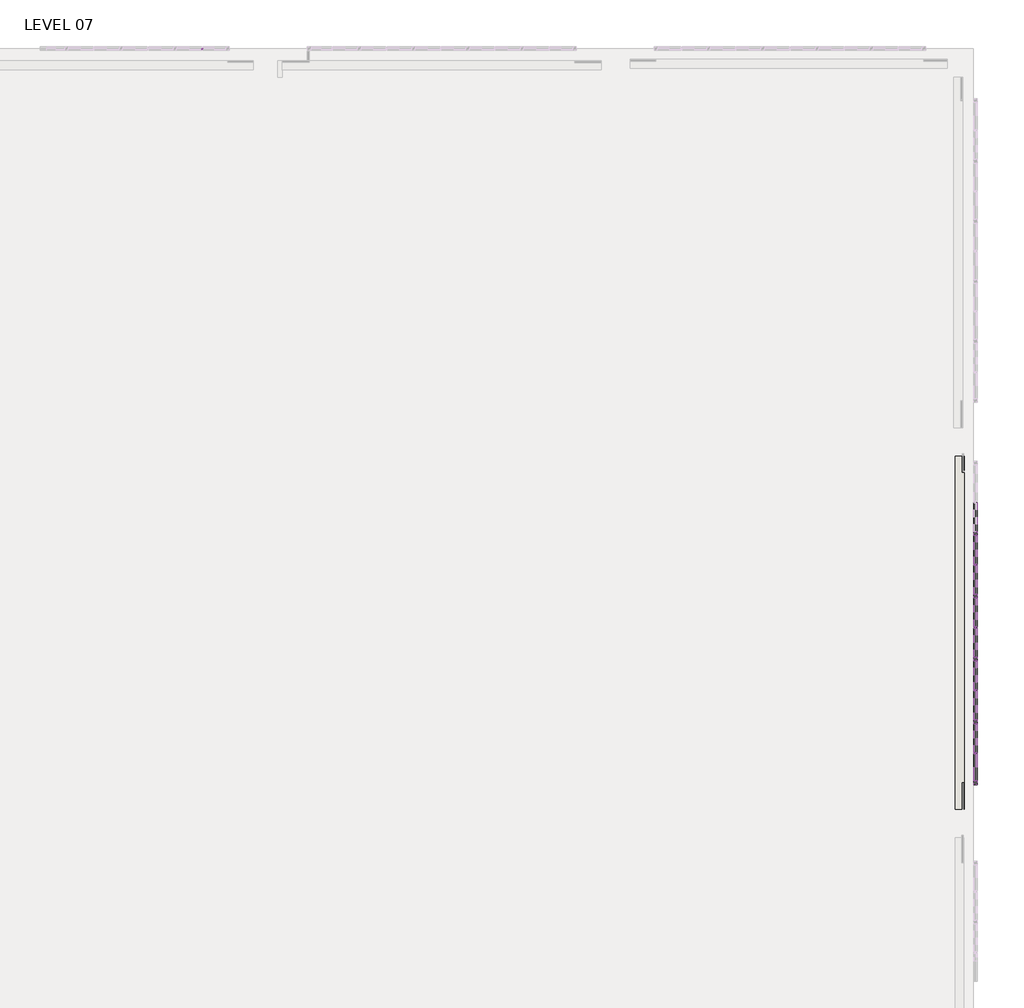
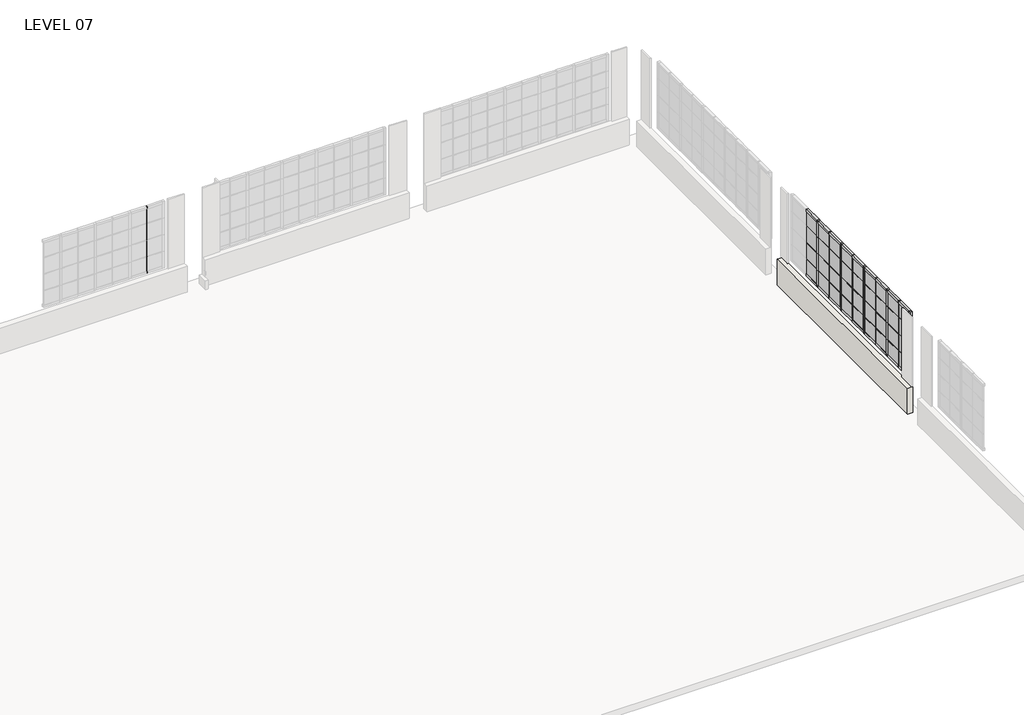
# One storey, part 11 of 15: 84 members, 36 plates, 2 walls.
"""IFC4 building model written with IfcOpenShell, lengths in millimetres."""

from ifc_helpers import new_model, si_unit, frame, origin, place, context, project, spatial, polyline, outline, extrude, transform, mapped, element, save
from components import member_78bb2ef1, member_2883aa03, member_9f48436b, member_378e0c06, member_17eb62f4, member_07c2242c, member_a14e987e, system_panel_glazed_c885c3d8, system_panel_glazed_038a278e, system_panel_glazed_6405e6af, system_panel_glazed_a1473ad5

model = new_model("IFC4")

# Units and contexts
model_context = context("Model", 3, world=origin())
ifc_project = project(units=[si_unit("LENGTHUNIT", "METRE", prefix="MILLI")], contexts=[model_context])

# Site, building, storey
site = spatial("IfcSite", under=ifc_project)
building = spatial("IfcBuilding", under=site)
storey = spatial("IfcBuildingStorey", under=building, Name="LEVEL 07", Elevation=20802.6)

# Members
placement = place(None, origin())
member_shape = member_78bb2ef1(model_context)
element("IfcMember", 1, ObjectType="Rectangular Mullion : 1\" x 1\" - Butt Joint", at=placement, inside=storey, context=model_context, shape_type="MappedRepresentation", body=[
    mapped(member_shape, transform((-445.6849596, -15316.3112602, 23342.6), x_axis=(0.0, 1.0, 0.0), y_axis=(1.0, 0.0, 0.0), z_axis=(0.0, 0.0, -1.0))),
])
element("IfcMember", 2, ObjectType="Rectangular Mullion : 1\" x 1\" - Butt Joint", at=placement, inside=storey, context=model_context, shape_type="MappedRepresentation", body=[
    mapped(member_shape, transform((-445.6849596, -13987.0198691, 23342.6), x_axis=(0.0, 1.0, 0.0), y_axis=(1.0, 0.0, 0.0), z_axis=(0.0, 0.0, -1.0))),
])
element("IfcMember", 3, ObjectType="Rectangular Mullion : 1\" x 1\" - Butt Joint", at=placement, inside=storey, context=model_context, shape_type="MappedRepresentation", body=[
    mapped(member_shape, transform((-445.6849596, -12657.7284779, 23342.6), x_axis=(0.0, 1.0, 0.0), y_axis=(1.0, 0.0, 0.0), z_axis=(0.0, 0.0, -1.0))),
])
element("IfcMember", 4, ObjectType="Rectangular Mullion : 1\" x 1\" - Butt Joint", at=placement, inside=storey, context=model_context, shape_type="MappedRepresentation", body=[
    mapped(member_shape, transform((-445.6849596, -11328.4370867, 23342.6), x_axis=(0.0, 1.0, 0.0), y_axis=(1.0, 0.0, 0.0), z_axis=(0.0, 0.0, -1.0))),
])
element("IfcMember", 5, ObjectType="Rectangular Mullion : 1\" x 1\" - Butt Joint", at=placement, inside=storey, context=model_context, shape_type="MappedRepresentation", body=[
    mapped(member_shape, transform((-445.6849596, -15316.3112602, 22174.2), x_axis=(0.0, 1.0, 0.0), y_axis=(1.0, 0.0, 0.0), z_axis=(0.0, 0.0, -1.0))),
])
element("IfcMember", 6, ObjectType="Rectangular Mullion : 1\" x 1\" - Butt Joint", at=placement, inside=storey, context=model_context, shape_type="MappedRepresentation", body=[
    mapped(member_shape, transform((-445.6849596, -15316.3112602, 22758.4), x_axis=(0.0, 1.0, 0.0), y_axis=(1.0, 0.0, 0.0), z_axis=(0.0, 0.0, -1.0))),
])
element("IfcMember", 7, ObjectType="Rectangular Mullion : 1\" x 1\" - Butt Joint", at=placement, inside=storey, context=model_context, shape_type="MappedRepresentation", body=[
    mapped(member_shape, transform((-445.6849596, -13987.0198691, 22174.2), x_axis=(0.0, 1.0, 0.0), y_axis=(1.0, 0.0, 0.0), z_axis=(0.0, 0.0, -1.0))),
])
element("IfcMember", 8, ObjectType="Rectangular Mullion : 1\" x 1\" - Butt Joint", at=placement, inside=storey, context=model_context, shape_type="MappedRepresentation", body=[
    mapped(member_shape, transform((-445.6849596, -13987.0198691, 22758.4), x_axis=(0.0, 1.0, 0.0), y_axis=(1.0, 0.0, 0.0), z_axis=(0.0, 0.0, -1.0))),
])
element("IfcMember", 9, ObjectType="Rectangular Mullion : 1\" x 1\" - Butt Joint", at=placement, inside=storey, context=model_context, shape_type="MappedRepresentation", body=[
    mapped(member_shape, transform((-445.6849596, -12657.7284779, 22174.2), x_axis=(0.0, 1.0, 0.0), y_axis=(1.0, 0.0, 0.0), z_axis=(0.0, 0.0, -1.0))),
])
element("IfcMember", 10, ObjectType="Rectangular Mullion : 1\" x 1\" - Butt Joint", at=placement, inside=storey, context=model_context, shape_type="MappedRepresentation", body=[
    mapped(member_shape, transform((-445.6849596, -12657.7284779, 22758.4), x_axis=(0.0, 1.0, 0.0), y_axis=(1.0, 0.0, 0.0), z_axis=(0.0, 0.0, -1.0))),
])
element("IfcMember", 11, ObjectType="Rectangular Mullion : 1\" x 1\" - Butt Joint", at=placement, inside=storey, context=model_context, shape_type="MappedRepresentation", body=[
    mapped(member_shape, transform((-445.6849596, -11328.4370867, 22174.2), x_axis=(0.0, 1.0, 0.0), y_axis=(1.0, 0.0, 0.0), z_axis=(0.0, 0.0, -1.0))),
])
element("IfcMember", 12, ObjectType="Rectangular Mullion : 1\" x 1\" - Butt Joint", at=placement, inside=storey, context=model_context, shape_type="MappedRepresentation", body=[
    mapped(member_shape, transform((-445.6849596, -11328.4370867, 22758.4), x_axis=(0.0, 1.0, 0.0), y_axis=(1.0, 0.0, 0.0), z_axis=(0.0, 0.0, -1.0))),
])
element("IfcMember", 13, ObjectType="Rectangular Mullion : 1\" x 1\" - Butt Joint", at=placement, inside=storey, context=model_context, shape_type="MappedRepresentation", body=[
    mapped(member_shape, transform((-445.6849596, -15316.3112602, 21590.0), x_axis=(0.0, 1.0, 0.0), y_axis=(1.0, 0.0, 0.0), z_axis=(0.0, 0.0, -1.0))),
])
element("IfcMember", 14, ObjectType="Rectangular Mullion : 1\" x 1\" - Butt Joint", at=placement, inside=storey, context=model_context, shape_type="MappedRepresentation", body=[
    mapped(member_shape, transform((-445.6849596, -13987.0198691, 21590.0), x_axis=(0.0, 1.0, 0.0), y_axis=(1.0, 0.0, 0.0), z_axis=(0.0, 0.0, -1.0))),
])
element("IfcMember", 15, ObjectType="Rectangular Mullion : 1\" x 1\" - Butt Joint", at=placement, inside=storey, context=model_context, shape_type="MappedRepresentation", body=[
    mapped(member_shape, transform((-445.6849596, -12657.7284779, 21590.0), x_axis=(0.0, 1.0, 0.0), y_axis=(1.0, 0.0, 0.0), z_axis=(0.0, 0.0, -1.0))),
])
element("IfcMember", 16, ObjectType="Rectangular Mullion : 1\" x 1\" - Butt Joint", at=placement, inside=storey, context=model_context, shape_type="MappedRepresentation", body=[
    mapped(member_shape, transform((-445.6849596, -11328.4370867, 21590.0), x_axis=(0.0, 1.0, 0.0), y_axis=(1.0, 0.0, 0.0), z_axis=(0.0, 0.0, -1.0))),
])
element("IfcMember", 17, ObjectType="Rectangular Mullion : 1\" x 1\" - Butt Joint", at=placement, inside=storey, context=model_context, shape_type="MappedRepresentation", body=[
    mapped(member_shape, transform((-16800.0371519, -412.75, 23342.6), x_axis=(1.0, 0.0, 0.0), y_axis=(0.0, -1.0, 0.0), z_axis=(0.0, 0.0, -1.0))),
])
element("IfcMember", 18, ObjectType="Rectangular Mullion : 1\" x 1\" - Butt Joint", at=placement, inside=storey, context=model_context, shape_type="MappedRepresentation", body=[
    mapped(member_shape, transform((-16800.0371519, -412.75, 22174.2), x_axis=(1.0, 0.0, 0.0), y_axis=(0.0, -1.0, 0.0), z_axis=(0.0, 0.0, -1.0))),
])
element("IfcMember", 19, ObjectType="Rectangular Mullion : 1\" x 1\" - Butt Joint", at=placement, inside=storey, context=model_context, shape_type="MappedRepresentation", body=[
    mapped(member_shape, transform((-16800.0371519, -412.75, 22758.4), x_axis=(1.0, 0.0, 0.0), y_axis=(0.0, -1.0, 0.0), z_axis=(0.0, 0.0, -1.0))),
])
element("IfcMember", 20, ObjectType="Rectangular Mullion : 1\" x 1\" - Butt Joint", at=placement, inside=storey, context=model_context, shape_type="MappedRepresentation", body=[
    mapped(member_shape, transform((-16800.0371519, -412.75, 21590.0), x_axis=(1.0, 0.0, 0.0), y_axis=(0.0, -1.0, 0.0), z_axis=(0.0, 0.0, -1.0))),
])
member_2_shape = member_2883aa03(model_context)
element("IfcMember", 21, ObjectType="Rectangular Mullion : 1\" x 1\" - Butt Joint", at=placement, inside=storey, context=model_context, shape_type="MappedRepresentation", body=[
    mapped(member_2_shape, transform((-445.6849596, -10701.8913912, 23342.6), x_axis=(0.0, 0.0, 1.0), y_axis=(1.0, 0.0, 0.0), z_axis=(0.0, 1.0, 0.0))),
])
element("IfcMember", 22, ObjectType="Rectangular Mullion : 1\" x 1\" - Butt Joint", at=placement, inside=storey, context=model_context, shape_type="MappedRepresentation", body=[
    mapped(member_2_shape, transform((-445.6849596, -12031.1827823, 23342.6), x_axis=(0.0, 0.0, 1.0), y_axis=(1.0, 0.0, 0.0), z_axis=(0.0, 1.0, 0.0))),
])
element("IfcMember", 23, ObjectType="Rectangular Mullion : 1\" x 1\" - Butt Joint", at=placement, inside=storey, context=model_context, shape_type="MappedRepresentation", body=[
    mapped(member_2_shape, transform((-445.6849596, -13360.4741735, 23342.6), x_axis=(0.0, 0.0, 1.0), y_axis=(1.0, 0.0, 0.0), z_axis=(0.0, 1.0, 0.0))),
])
element("IfcMember", 24, ObjectType="Rectangular Mullion : 1\" x 1\" - Butt Joint", at=placement, inside=storey, context=model_context, shape_type="MappedRepresentation", body=[
    mapped(member_2_shape, transform((-445.6849596, -14689.7655646, 23342.6), x_axis=(0.0, 0.0, 1.0), y_axis=(1.0, 0.0, 0.0), z_axis=(0.0, 1.0, 0.0))),
])
element("IfcMember", 25, ObjectType="Rectangular Mullion : 1\" x 1\" - Butt Joint", at=placement, inside=storey, context=model_context, shape_type="MappedRepresentation", body=[
    mapped(member_2_shape, transform((-445.6849596, -10011.8456956, 23342.6), x_axis=(0.0, 0.0, 1.0), y_axis=(1.0, 0.0, 0.0), z_axis=(0.0, 1.0, 0.0))),
])
element("IfcMember", 26, ObjectType="Rectangular Mullion : 1\" x 1\" - Butt Joint", at=placement, inside=storey, context=model_context, shape_type="MappedRepresentation", body=[
    mapped(member_2_shape, transform((-445.6849596, -11341.1370867, 23342.6), x_axis=(0.0, 0.0, 1.0), y_axis=(1.0, 0.0, 0.0), z_axis=(0.0, 1.0, 0.0))),
])
element("IfcMember", 27, ObjectType="Rectangular Mullion : 1\" x 1\" - Butt Joint", at=placement, inside=storey, context=model_context, shape_type="MappedRepresentation", body=[
    mapped(member_2_shape, transform((-445.6849596, -12670.4284779, 23342.6), x_axis=(0.0, 0.0, 1.0), y_axis=(1.0, 0.0, 0.0), z_axis=(0.0, 1.0, 0.0))),
])
element("IfcMember", 28, ObjectType="Rectangular Mullion : 1\" x 1\" - Butt Joint", at=placement, inside=storey, context=model_context, shape_type="MappedRepresentation", body=[
    mapped(member_2_shape, transform((-445.6849596, -13999.7198691, 23342.6), x_axis=(0.0, 0.0, 1.0), y_axis=(1.0, 0.0, 0.0), z_axis=(0.0, 1.0, 0.0))),
])
element("IfcMember", 29, ObjectType="Rectangular Mullion : 1\" x 1\" - Butt Joint", at=placement, inside=storey, context=model_context, shape_type="MappedRepresentation", body=[
    mapped(member_2_shape, transform((-445.6849596, -10701.8913912, 22758.4), x_axis=(0.0, 0.0, 1.0), y_axis=(1.0, 0.0, 0.0), z_axis=(0.0, 1.0, 0.0))),
])
element("IfcMember", 30, ObjectType="Rectangular Mullion : 1\" x 1\" - Butt Joint", at=placement, inside=storey, context=model_context, shape_type="MappedRepresentation", body=[
    mapped(member_2_shape, transform((-445.6849596, -12031.1827823, 22758.4), x_axis=(0.0, 0.0, 1.0), y_axis=(1.0, 0.0, 0.0), z_axis=(0.0, 1.0, 0.0))),
])
element("IfcMember", 31, ObjectType="Rectangular Mullion : 1\" x 1\" - Butt Joint", at=placement, inside=storey, context=model_context, shape_type="MappedRepresentation", body=[
    mapped(member_2_shape, transform((-445.6849596, -13360.4741735, 22758.4), x_axis=(0.0, 0.0, 1.0), y_axis=(1.0, 0.0, 0.0), z_axis=(0.0, 1.0, 0.0))),
])
element("IfcMember", 32, ObjectType="Rectangular Mullion : 1\" x 1\" - Butt Joint", at=placement, inside=storey, context=model_context, shape_type="MappedRepresentation", body=[
    mapped(member_2_shape, transform((-445.6849596, -14689.7655646, 22758.4), x_axis=(0.0, 0.0, 1.0), y_axis=(1.0, 0.0, 0.0), z_axis=(0.0, 1.0, 0.0))),
])
element("IfcMember", 33, ObjectType="Rectangular Mullion : 1\" x 1\" - Butt Joint", at=placement, inside=storey, context=model_context, shape_type="MappedRepresentation", body=[
    mapped(member_2_shape, transform((-445.6849596, -10011.8456956, 22758.4), x_axis=(0.0, 0.0, 1.0), y_axis=(1.0, 0.0, 0.0), z_axis=(0.0, 1.0, 0.0))),
])
element("IfcMember", 34, ObjectType="Rectangular Mullion : 1\" x 1\" - Butt Joint", at=placement, inside=storey, context=model_context, shape_type="MappedRepresentation", body=[
    mapped(member_2_shape, transform((-445.6849596, -11341.1370867, 22758.4), x_axis=(0.0, 0.0, 1.0), y_axis=(1.0, 0.0, 0.0), z_axis=(0.0, 1.0, 0.0))),
])
element("IfcMember", 35, ObjectType="Rectangular Mullion : 1\" x 1\" - Butt Joint", at=placement, inside=storey, context=model_context, shape_type="MappedRepresentation", body=[
    mapped(member_2_shape, transform((-445.6849596, -12670.4284779, 22758.4), x_axis=(0.0, 0.0, 1.0), y_axis=(1.0, 0.0, 0.0), z_axis=(0.0, 1.0, 0.0))),
])
element("IfcMember", 36, ObjectType="Rectangular Mullion : 1\" x 1\" - Butt Joint", at=placement, inside=storey, context=model_context, shape_type="MappedRepresentation", body=[
    mapped(member_2_shape, transform((-445.6849596, -13999.7198691, 22758.4), x_axis=(0.0, 0.0, 1.0), y_axis=(1.0, 0.0, 0.0), z_axis=(0.0, 1.0, 0.0))),
])
element("IfcMember", 37, ObjectType="Rectangular Mullion : 1\" x 1\" - Butt Joint", at=placement, inside=storey, context=model_context, shape_type="MappedRepresentation", body=[
    mapped(member_2_shape, transform((-445.6849596, -10701.8913912, 22174.2), x_axis=(0.0, 0.0, 1.0), y_axis=(1.0, 0.0, 0.0), z_axis=(0.0, 1.0, 0.0))),
])
element("IfcMember", 38, ObjectType="Rectangular Mullion : 1\" x 1\" - Butt Joint", at=placement, inside=storey, context=model_context, shape_type="MappedRepresentation", body=[
    mapped(member_2_shape, transform((-445.6849596, -12031.1827823, 22174.2), x_axis=(0.0, 0.0, 1.0), y_axis=(1.0, 0.0, 0.0), z_axis=(0.0, 1.0, 0.0))),
])
element("IfcMember", 39, ObjectType="Rectangular Mullion : 1\" x 1\" - Butt Joint", at=placement, inside=storey, context=model_context, shape_type="MappedRepresentation", body=[
    mapped(member_2_shape, transform((-445.6849596, -13360.4741735, 22174.2), x_axis=(0.0, 0.0, 1.0), y_axis=(1.0, 0.0, 0.0), z_axis=(0.0, 1.0, 0.0))),
])
element("IfcMember", 40, ObjectType="Rectangular Mullion : 1\" x 1\" - Butt Joint", at=placement, inside=storey, context=model_context, shape_type="MappedRepresentation", body=[
    mapped(member_2_shape, transform((-445.6849596, -14689.7655646, 22174.2), x_axis=(0.0, 0.0, 1.0), y_axis=(1.0, 0.0, 0.0), z_axis=(0.0, 1.0, 0.0))),
])
element("IfcMember", 41, ObjectType="Rectangular Mullion : 1\" x 1\" - Butt Joint", at=placement, inside=storey, context=model_context, shape_type="MappedRepresentation", body=[
    mapped(member_2_shape, transform((-445.6849596, -11341.1370867, 22174.2), x_axis=(0.0, 0.0, 1.0), y_axis=(1.0, 0.0, 0.0), z_axis=(0.0, 1.0, 0.0))),
])
element("IfcMember", 42, ObjectType="Rectangular Mullion : 1\" x 1\" - Butt Joint", at=placement, inside=storey, context=model_context, shape_type="MappedRepresentation", body=[
    mapped(member_2_shape, transform((-445.6849596, -12670.4284779, 22174.2), x_axis=(0.0, 0.0, 1.0), y_axis=(1.0, 0.0, 0.0), z_axis=(0.0, 1.0, 0.0))),
])
element("IfcMember", 43, ObjectType="Rectangular Mullion : 1\" x 1\" - Butt Joint", at=placement, inside=storey, context=model_context, shape_type="MappedRepresentation", body=[
    mapped(member_2_shape, transform((-445.6849596, -13999.7198691, 22174.2), x_axis=(0.0, 0.0, 1.0), y_axis=(1.0, 0.0, 0.0), z_axis=(0.0, 1.0, 0.0))),
])
member_3_shape = member_9f48436b(model_context)
element("IfcMember", 44, ObjectType="Rectangular Mullion : 1\" x 1\" - Butt Joint", at=placement, inside=storey, context=model_context, shape_type="MappedRepresentation", body=[
    mapped(member_3_shape, transform((-445.6849596, -15329.0112602, 23342.6), x_axis=(0.0, 0.0, 1.0), y_axis=(1.0, 0.0, 0.0), z_axis=(0.0, 1.0, 0.0))),
])
element("IfcMember", 45, ObjectType="Rectangular Mullion : 1\" x 1\" - Butt Joint", at=placement, inside=storey, context=model_context, shape_type="MappedRepresentation", body=[
    mapped(member_3_shape, transform((-445.6849596, -15329.0112602, 22758.4), x_axis=(0.0, 0.0, 1.0), y_axis=(1.0, 0.0, 0.0), z_axis=(0.0, 1.0, 0.0))),
])
element("IfcMember", 46, ObjectType="Rectangular Mullion : 1\" x 1\" - Butt Joint", at=placement, inside=storey, context=model_context, shape_type="MappedRepresentation", body=[
    mapped(member_3_shape, transform((-445.6849596, -15329.0112602, 22174.2), x_axis=(0.0, 0.0, 1.0), y_axis=(1.0, 0.0, 0.0), z_axis=(0.0, 1.0, 0.0))),
])
member_4_shape = member_378e0c06(model_context)
element("IfcMember", 47, ObjectType="Rectangular Mullion : 3\" x 3\" Window Jamb", at=placement, inside=storey, context=model_context, shape_type="MappedRepresentation", body=[
    mapped(member_4_shape, transform((-445.6849596, -14651.6655646, 23342.6), x_axis=(0.0, 1.0, 0.0), y_axis=(1.0, 0.0, 0.0), z_axis=(0.0, 0.0, -1.0))),
])
element("IfcMember", 48, ObjectType="Rectangular Mullion : 3\" x 3\" Window Jamb", at=placement, inside=storey, context=model_context, shape_type="MappedRepresentation", body=[
    mapped(member_4_shape, transform((-445.6849596, -13322.3741735, 23342.6), x_axis=(0.0, 1.0, 0.0), y_axis=(1.0, 0.0, 0.0), z_axis=(0.0, 0.0, -1.0))),
])
element("IfcMember", 49, ObjectType="Rectangular Mullion : 3\" x 3\" Window Jamb", at=placement, inside=storey, context=model_context, shape_type="MappedRepresentation", body=[
    mapped(member_4_shape, transform((-445.6849596, -11993.0827823, 23342.6), x_axis=(0.0, 1.0, 0.0), y_axis=(1.0, 0.0, 0.0), z_axis=(0.0, 0.0, -1.0))),
])
element("IfcMember", 50, ObjectType="Rectangular Mullion : 3\" x 3\" Window Jamb", at=placement, inside=storey, context=model_context, shape_type="MappedRepresentation", body=[
    mapped(member_4_shape, transform((-445.6849596, -10663.7913912, 23342.6), x_axis=(0.0, 1.0, 0.0), y_axis=(1.0, 0.0, 0.0), z_axis=(0.0, 0.0, -1.0))),
])
member_5_shape = member_17eb62f4(model_context)
element("IfcMember", 51, ObjectType="Rectangular Mullion : 3\" x 3\" Window Jamb", at=placement, inside=storey, context=model_context, shape_type="MappedRepresentation", body=[
    mapped(member_5_shape, transform((-445.6849596, -15980.9569558, 23926.8), x_axis=(0.0, -1.0, 0.0), y_axis=(1.0, 0.0, 0.0), z_axis=(0.0, 0.0, 1.0))),
])
element("IfcMember", 52, ObjectType="Rectangular Mullion : 3\" x 3\" Window Jamb", at=placement, inside=storey, context=model_context, shape_type="MappedRepresentation", body=[
    mapped(member_4_shape, transform((-445.6849596, -14651.6655646, 22174.2), x_axis=(0.0, 1.0, 0.0), y_axis=(1.0, 0.0, 0.0), z_axis=(0.0, 0.0, -1.0))),
])
element("IfcMember", 53, ObjectType="Rectangular Mullion : 3\" x 3\" Window Jamb", at=placement, inside=storey, context=model_context, shape_type="MappedRepresentation", body=[
    mapped(member_4_shape, transform((-445.6849596, -14651.6655646, 22758.4), x_axis=(0.0, 1.0, 0.0), y_axis=(1.0, 0.0, 0.0), z_axis=(0.0, 0.0, -1.0))),
])
element("IfcMember", 54, ObjectType="Rectangular Mullion : 3\" x 3\" Window Jamb", at=placement, inside=storey, context=model_context, shape_type="MappedRepresentation", body=[
    mapped(member_4_shape, transform((-445.6849596, -13322.3741735, 22174.2), x_axis=(0.0, 1.0, 0.0), y_axis=(1.0, 0.0, 0.0), z_axis=(0.0, 0.0, -1.0))),
])
element("IfcMember", 55, ObjectType="Rectangular Mullion : 3\" x 3\" Window Jamb", at=placement, inside=storey, context=model_context, shape_type="MappedRepresentation", body=[
    mapped(member_4_shape, transform((-445.6849596, -13322.3741735, 22758.4), x_axis=(0.0, 1.0, 0.0), y_axis=(1.0, 0.0, 0.0), z_axis=(0.0, 0.0, -1.0))),
])
element("IfcMember", 56, ObjectType="Rectangular Mullion : 3\" x 3\" Window Jamb", at=placement, inside=storey, context=model_context, shape_type="MappedRepresentation", body=[
    mapped(member_4_shape, transform((-445.6849596, -11993.0827823, 22174.2), x_axis=(0.0, 1.0, 0.0), y_axis=(1.0, 0.0, 0.0), z_axis=(0.0, 0.0, -1.0))),
])
element("IfcMember", 57, ObjectType="Rectangular Mullion : 3\" x 3\" Window Jamb", at=placement, inside=storey, context=model_context, shape_type="MappedRepresentation", body=[
    mapped(member_4_shape, transform((-445.6849596, -11993.0827823, 22758.4), x_axis=(0.0, 1.0, 0.0), y_axis=(1.0, 0.0, 0.0), z_axis=(0.0, 0.0, -1.0))),
])
element("IfcMember", 58, ObjectType="Rectangular Mullion : 3\" x 3\" Window Jamb", at=placement, inside=storey, context=model_context, shape_type="MappedRepresentation", body=[
    mapped(member_4_shape, transform((-445.6849596, -10663.7913912, 22174.2), x_axis=(0.0, 1.0, 0.0), y_axis=(1.0, 0.0, 0.0), z_axis=(0.0, 0.0, -1.0))),
])
element("IfcMember", 59, ObjectType="Rectangular Mullion : 3\" x 3\" Window Jamb", at=placement, inside=storey, context=model_context, shape_type="MappedRepresentation", body=[
    mapped(member_4_shape, transform((-445.6849596, -10663.7913912, 22758.4), x_axis=(0.0, 1.0, 0.0), y_axis=(1.0, 0.0, 0.0), z_axis=(0.0, 0.0, -1.0))),
])
element("IfcMember", 60, ObjectType="Rectangular Mullion : 3\" x 3\" Window Jamb", at=placement, inside=storey, context=model_context, shape_type="MappedRepresentation", body=[
    mapped(member_5_shape, transform((-445.6849596, -15980.9569558, 23342.6), x_axis=(0.0, -1.0, 0.0), y_axis=(1.0, 0.0, 0.0), z_axis=(0.0, 0.0, 1.0))),
])
element("IfcMember", 61, ObjectType="Rectangular Mullion : 3\" x 3\" Window Jamb", at=placement, inside=storey, context=model_context, shape_type="MappedRepresentation", body=[
    mapped(member_5_shape, transform((-445.6849596, -15980.9569558, 22758.4), x_axis=(0.0, -1.0, 0.0), y_axis=(1.0, 0.0, 0.0), z_axis=(0.0, 0.0, 1.0))),
])
element("IfcMember", 62, ObjectType="Rectangular Mullion : 3\" x 3\" Window Jamb", at=placement, inside=storey, context=model_context, shape_type="MappedRepresentation", body=[
    mapped(member_4_shape, transform((-445.6849596, -14651.6655646, 21590.0), x_axis=(0.0, 1.0, 0.0), y_axis=(1.0, 0.0, 0.0), z_axis=(0.0, 0.0, -1.0))),
])
element("IfcMember", 63, ObjectType="Rectangular Mullion : 3\" x 3\" Window Jamb", at=placement, inside=storey, context=model_context, shape_type="MappedRepresentation", body=[
    mapped(member_4_shape, transform((-445.6849596, -13322.3741735, 21590.0), x_axis=(0.0, 1.0, 0.0), y_axis=(1.0, 0.0, 0.0), z_axis=(0.0, 0.0, -1.0))),
])
element("IfcMember", 64, ObjectType="Rectangular Mullion : 3\" x 3\" Window Jamb", at=placement, inside=storey, context=model_context, shape_type="MappedRepresentation", body=[
    mapped(member_4_shape, transform((-445.6849596, -11993.0827823, 21590.0), x_axis=(0.0, 1.0, 0.0), y_axis=(1.0, 0.0, 0.0), z_axis=(0.0, 0.0, -1.0))),
])
element("IfcMember", 65, ObjectType="Rectangular Mullion : 3\" x 3\" Window Jamb", at=placement, inside=storey, context=model_context, shape_type="MappedRepresentation", body=[
    mapped(member_4_shape, transform((-445.6849596, -10663.7913912, 21590.0), x_axis=(0.0, 1.0, 0.0), y_axis=(1.0, 0.0, 0.0), z_axis=(0.0, 0.0, -1.0))),
])
element("IfcMember", 66, ObjectType="Rectangular Mullion : 3\" x 3\" Window Jamb", at=placement, inside=storey, context=model_context, shape_type="MappedRepresentation", body=[
    mapped(member_5_shape, transform((-445.6849596, -15980.9569558, 22174.2), x_axis=(0.0, -1.0, 0.0), y_axis=(1.0, 0.0, 0.0), z_axis=(0.0, 0.0, 1.0))),
])
member_6_shape = member_07c2242c(model_context)
element("IfcMember", 67, ObjectType="Rectangular Mullion : 3\" x 3\" Window Jamb", at=placement, inside=storey, context=model_context, shape_type="MappedRepresentation", body=[
    mapped(member_6_shape, transform((-445.6849596, -10011.8456956, 23926.8), x_axis=(0.0, 0.0, 1.0), y_axis=(1.0, 0.0, 0.0), z_axis=(0.0, 1.0, 0.0))),
])
element("IfcMember", 68, ObjectType="Rectangular Mullion : 3\" x 3\" Window Jamb", at=placement, inside=storey, context=model_context, shape_type="MappedRepresentation", body=[
    mapped(member_6_shape, transform((-445.6849596, -11341.1370867, 23926.8), x_axis=(0.0, 0.0, 1.0), y_axis=(1.0, 0.0, 0.0), z_axis=(0.0, 1.0, 0.0))),
])
element("IfcMember", 69, ObjectType="Rectangular Mullion : 3\" x 3\" Window Jamb", at=placement, inside=storey, context=model_context, shape_type="MappedRepresentation", body=[
    mapped(member_6_shape, transform((-445.6849596, -12670.4284779, 23926.8), x_axis=(0.0, 0.0, 1.0), y_axis=(1.0, 0.0, 0.0), z_axis=(0.0, 1.0, 0.0))),
])
element("IfcMember", 70, ObjectType="Rectangular Mullion : 3\" x 3\" Window Jamb", at=placement, inside=storey, context=model_context, shape_type="MappedRepresentation", body=[
    mapped(member_6_shape, transform((-445.6849596, -13999.7198691, 23926.8), x_axis=(0.0, 0.0, 1.0), y_axis=(1.0, 0.0, 0.0), z_axis=(0.0, 1.0, 0.0))),
])
element("IfcMember", 71, ObjectType="Rectangular Mullion : 3\" x 3\" Window Jamb", at=placement, inside=storey, context=model_context, shape_type="MappedRepresentation", body=[
    mapped(member_6_shape, transform((-445.6849596, -10701.8913912, 23926.8), x_axis=(0.0, 0.0, 1.0), y_axis=(1.0, 0.0, 0.0), z_axis=(0.0, 1.0, 0.0))),
])
element("IfcMember", 72, ObjectType="Rectangular Mullion : 3\" x 3\" Window Jamb", at=placement, inside=storey, context=model_context, shape_type="MappedRepresentation", body=[
    mapped(member_6_shape, transform((-445.6849596, -12031.1827823, 23926.8), x_axis=(0.0, 0.0, 1.0), y_axis=(1.0, 0.0, 0.0), z_axis=(0.0, 1.0, 0.0))),
])
element("IfcMember", 73, ObjectType="Rectangular Mullion : 3\" x 3\" Window Jamb", at=placement, inside=storey, context=model_context, shape_type="MappedRepresentation", body=[
    mapped(member_6_shape, transform((-445.6849596, -13360.4741735, 23926.8), x_axis=(0.0, 0.0, 1.0), y_axis=(1.0, 0.0, 0.0), z_axis=(0.0, 1.0, 0.0))),
])
element("IfcMember", 74, ObjectType="Rectangular Mullion : 3\" x 3\" Window Jamb", at=placement, inside=storey, context=model_context, shape_type="MappedRepresentation", body=[
    mapped(member_6_shape, transform((-445.6849596, -14689.7655646, 23926.8), x_axis=(0.0, 0.0, 1.0), y_axis=(1.0, 0.0, 0.0), z_axis=(0.0, 1.0, 0.0))),
])
member_7_shape = member_a14e987e(model_context)
element("IfcMember", 75, ObjectType="Rectangular Mullion : 3\" x 3\" Window Jamb", at=placement, inside=storey, context=model_context, shape_type="MappedRepresentation", body=[
    mapped(member_7_shape, transform((-445.6849596, -15329.0112602, 23926.8), x_axis=(0.0, 0.0, 1.0), y_axis=(1.0, 0.0, 0.0), z_axis=(0.0, 1.0, 0.0))),
])
element("IfcMember", 76, ObjectType="Rectangular Mullion : 3\" x 3\" Window Jamb", at=placement, inside=storey, context=model_context, shape_type="MappedRepresentation", body=[
    mapped(member_6_shape, transform((-445.6849596, -11315.7370867, 21590.0), x_axis=(0.0, 0.0, -1.0), y_axis=(1.0, 0.0, 0.0), z_axis=(0.0, -1.0, 0.0))),
])
element("IfcMember", 77, ObjectType="Rectangular Mullion : 3\" x 3\" Window Jamb", at=placement, inside=storey, context=model_context, shape_type="MappedRepresentation", body=[
    mapped(member_6_shape, transform((-445.6849596, -12645.0284779, 21590.0), x_axis=(0.0, 0.0, -1.0), y_axis=(1.0, 0.0, 0.0), z_axis=(0.0, -1.0, 0.0))),
])
element("IfcMember", 78, ObjectType="Rectangular Mullion : 3\" x 3\" Window Jamb", at=placement, inside=storey, context=model_context, shape_type="MappedRepresentation", body=[
    mapped(member_6_shape, transform((-445.6849596, -13974.3198691, 21590.0), x_axis=(0.0, 0.0, -1.0), y_axis=(1.0, 0.0, 0.0), z_axis=(0.0, -1.0, 0.0))),
])
element("IfcMember", 79, ObjectType="Rectangular Mullion : 3\" x 3\" Window Jamb", at=placement, inside=storey, context=model_context, shape_type="MappedRepresentation", body=[
    mapped(member_6_shape, transform((-445.6849596, -15303.6112602, 21590.0), x_axis=(0.0, 0.0, -1.0), y_axis=(1.0, 0.0, 0.0), z_axis=(0.0, -1.0, 0.0))),
])
element("IfcMember", 80, ObjectType="Rectangular Mullion : 3\" x 3\" Window Jamb", at=placement, inside=storey, context=model_context, shape_type="MappedRepresentation", body=[
    mapped(member_6_shape, transform((-445.6849596, -10625.6913912, 21590.0), x_axis=(0.0, 0.0, -1.0), y_axis=(1.0, 0.0, 0.0), z_axis=(0.0, -1.0, 0.0))),
])
element("IfcMember", 81, ObjectType="Rectangular Mullion : 3\" x 3\" Window Jamb", at=placement, inside=storey, context=model_context, shape_type="MappedRepresentation", body=[
    mapped(member_6_shape, transform((-445.6849596, -11954.9827823, 21590.0), x_axis=(0.0, 0.0, -1.0), y_axis=(1.0, 0.0, 0.0), z_axis=(0.0, -1.0, 0.0))),
])
element("IfcMember", 82, ObjectType="Rectangular Mullion : 3\" x 3\" Window Jamb", at=placement, inside=storey, context=model_context, shape_type="MappedRepresentation", body=[
    mapped(member_6_shape, transform((-445.6849596, -13284.2741735, 21590.0), x_axis=(0.0, 0.0, -1.0), y_axis=(1.0, 0.0, 0.0), z_axis=(0.0, -1.0, 0.0))),
])
element("IfcMember", 83, ObjectType="Rectangular Mullion : 3\" x 3\" Window Jamb", at=placement, inside=storey, context=model_context, shape_type="MappedRepresentation", body=[
    mapped(member_6_shape, transform((-445.6849596, -14613.5655646, 21590.0), x_axis=(0.0, 0.0, -1.0), y_axis=(1.0, 0.0, 0.0), z_axis=(0.0, -1.0, 0.0))),
])
element("IfcMember", 84, ObjectType="Rectangular Mullion : 3\" x 3\" Window Jamb", at=placement, inside=storey, context=model_context, shape_type="MappedRepresentation", body=[
    mapped(member_7_shape, transform((-445.6849596, -15904.7569558, 21590.0), x_axis=(0.0, 0.0, -1.0), y_axis=(1.0, 0.0, 0.0), z_axis=(0.0, -1.0, 0.0))),
])

# Plates
system_panel_glazed_shape = system_panel_glazed_c885c3d8(model_context)
element("IfcPlate", 85, ObjectType="System Panel : Glazed", at=placement, inside=storey, context=model_context, shape_type="MappedRepresentation", body=[
    mapped(system_panel_glazed_shape, transform((-445.6849596, -15616.884108, 21666.2), x_axis=(0.0, 1.0, 0.0), y_axis=(-1.0, 0.0, 0.0), z_axis=(0.0, 0.0, 1.0))),
])
element("IfcPlate", 86, ObjectType="System Panel : Glazed", at=placement, inside=storey, context=model_context, shape_type="MappedRepresentation", body=[
    mapped(system_panel_glazed_shape, transform((-445.6849596, -15616.884108, 23355.3), x_axis=(0.0, 1.0, 0.0), y_axis=(-1.0, 0.0, 0.0), z_axis=(0.0, 0.0, 1.0))),
])
system_panel_glazed_2_shape = system_panel_glazed_038a278e(model_context)
element("IfcPlate", 87, ObjectType="System Panel : Glazed", at=placement, inside=storey, context=model_context, shape_type="MappedRepresentation", body=[
    mapped(system_panel_glazed_2_shape, transform((-445.6849596, -15616.884108, 22771.1), x_axis=(0.0, 1.0, 0.0), y_axis=(-1.0, 0.0, 0.0), z_axis=(0.0, 0.0, 1.0))),
])
element("IfcPlate", 88, ObjectType="System Panel : Glazed", at=placement, inside=storey, context=model_context, shape_type="MappedRepresentation", body=[
    mapped(system_panel_glazed_2_shape, transform((-445.6849596, -15616.884108, 22186.9), x_axis=(0.0, 1.0, 0.0), y_axis=(-1.0, 0.0, 0.0), z_axis=(0.0, 0.0, 1.0))),
])
system_panel_glazed_3_shape = system_panel_glazed_6405e6af(model_context)
element("IfcPlate", 89, ObjectType="System Panel : Glazed", at=placement, inside=storey, context=model_context, shape_type="MappedRepresentation", body=[
    mapped(system_panel_glazed_3_shape, transform((-445.6849596, -14306.6427169, 21666.2), x_axis=(0.0, 1.0, 0.0), y_axis=(-1.0, 0.0, 0.0), z_axis=(0.0, 0.0, 1.0))),
])
element("IfcPlate", 90, ObjectType="System Panel : Glazed", at=placement, inside=storey, context=model_context, shape_type="MappedRepresentation", body=[
    mapped(system_panel_glazed_3_shape, transform((-445.6849596, -12977.3513257, 21666.2), x_axis=(0.0, 1.0, 0.0), y_axis=(-1.0, 0.0, 0.0), z_axis=(0.0, 0.0, 1.0))),
])
element("IfcPlate", 91, ObjectType="System Panel : Glazed", at=placement, inside=storey, context=model_context, shape_type="MappedRepresentation", body=[
    mapped(system_panel_glazed_3_shape, transform((-445.6849596, -11648.0599345, 21666.2), x_axis=(0.0, 1.0, 0.0), y_axis=(-1.0, 0.0, 0.0), z_axis=(0.0, 0.0, 1.0))),
])
element("IfcPlate", 92, ObjectType="System Panel : Glazed", at=placement, inside=storey, context=model_context, shape_type="MappedRepresentation", body=[
    mapped(system_panel_glazed_3_shape, transform((-445.6849596, -10318.7685434, 21666.2), x_axis=(0.0, 1.0, 0.0), y_axis=(-1.0, 0.0, 0.0), z_axis=(0.0, 0.0, 1.0))),
])
element("IfcPlate", 93, ObjectType="System Panel : Glazed", at=placement, inside=storey, context=model_context, shape_type="MappedRepresentation", body=[
    mapped(system_panel_glazed_3_shape, transform((-445.6849596, -14306.6427169, 23355.3), x_axis=(0.0, 1.0, 0.0), y_axis=(-1.0, 0.0, 0.0), z_axis=(0.0, 0.0, 1.0))),
])
element("IfcPlate", 94, ObjectType="System Panel : Glazed", at=placement, inside=storey, context=model_context, shape_type="MappedRepresentation", body=[
    mapped(system_panel_glazed_3_shape, transform((-445.6849596, -12977.3513257, 23355.3), x_axis=(0.0, 1.0, 0.0), y_axis=(-1.0, 0.0, 0.0), z_axis=(0.0, 0.0, 1.0))),
])
element("IfcPlate", 95, ObjectType="System Panel : Glazed", at=placement, inside=storey, context=model_context, shape_type="MappedRepresentation", body=[
    mapped(system_panel_glazed_3_shape, transform((-445.6849596, -11648.0599345, 23355.3), x_axis=(0.0, 1.0, 0.0), y_axis=(-1.0, 0.0, 0.0), z_axis=(0.0, 0.0, 1.0))),
])
element("IfcPlate", 96, ObjectType="System Panel : Glazed", at=placement, inside=storey, context=model_context, shape_type="MappedRepresentation", body=[
    mapped(system_panel_glazed_3_shape, transform((-445.6849596, -10318.7685434, 23355.3), x_axis=(0.0, 1.0, 0.0), y_axis=(-1.0, 0.0, 0.0), z_axis=(0.0, 0.0, 1.0))),
])
element("IfcPlate", 97, ObjectType="System Panel : Glazed", at=placement, inside=storey, context=model_context, shape_type="MappedRepresentation", body=[
    mapped(system_panel_glazed_3_shape, transform((-445.6849596, -14996.6884124, 21666.2), x_axis=(0.0, 1.0, 0.0), y_axis=(-1.0, 0.0, 0.0), z_axis=(0.0, 0.0, 1.0))),
])
element("IfcPlate", 98, ObjectType="System Panel : Glazed", at=placement, inside=storey, context=model_context, shape_type="MappedRepresentation", body=[
    mapped(system_panel_glazed_3_shape, transform((-445.6849596, -14996.6884124, 23355.3), x_axis=(0.0, 1.0, 0.0), y_axis=(-1.0, 0.0, 0.0), z_axis=(0.0, 0.0, 1.0))),
])
element("IfcPlate", 99, ObjectType="System Panel : Glazed", at=placement, inside=storey, context=model_context, shape_type="MappedRepresentation", body=[
    mapped(system_panel_glazed_3_shape, transform((-445.6849596, -13667.3970213, 21666.2), x_axis=(0.0, 1.0, 0.0), y_axis=(-1.0, 0.0, 0.0), z_axis=(0.0, 0.0, 1.0))),
])
element("IfcPlate", 100, ObjectType="System Panel : Glazed", at=placement, inside=storey, context=model_context, shape_type="MappedRepresentation", body=[
    mapped(system_panel_glazed_3_shape, transform((-445.6849596, -13667.3970213, 23355.3), x_axis=(0.0, 1.0, 0.0), y_axis=(-1.0, 0.0, 0.0), z_axis=(0.0, 0.0, 1.0))),
])
element("IfcPlate", 101, ObjectType="System Panel : Glazed", at=placement, inside=storey, context=model_context, shape_type="MappedRepresentation", body=[
    mapped(system_panel_glazed_3_shape, transform((-445.6849596, -12338.1056301, 21666.2), x_axis=(0.0, 1.0, 0.0), y_axis=(-1.0, 0.0, 0.0), z_axis=(0.0, 0.0, 1.0))),
])
element("IfcPlate", 102, ObjectType="System Panel : Glazed", at=placement, inside=storey, context=model_context, shape_type="MappedRepresentation", body=[
    mapped(system_panel_glazed_3_shape, transform((-445.6849596, -12338.1056301, 23355.3), x_axis=(0.0, 1.0, 0.0), y_axis=(-1.0, 0.0, 0.0), z_axis=(0.0, 0.0, 1.0))),
])
element("IfcPlate", 103, ObjectType="System Panel : Glazed", at=placement, inside=storey, context=model_context, shape_type="MappedRepresentation", body=[
    mapped(system_panel_glazed_3_shape, transform((-445.6849596, -11008.814239, 21666.2), x_axis=(0.0, 1.0, 0.0), y_axis=(-1.0, 0.0, 0.0), z_axis=(0.0, 0.0, 1.0))),
])
element("IfcPlate", 104, ObjectType="System Panel : Glazed", at=placement, inside=storey, context=model_context, shape_type="MappedRepresentation", body=[
    mapped(system_panel_glazed_3_shape, transform((-445.6849596, -11008.814239, 23355.3), x_axis=(0.0, 1.0, 0.0), y_axis=(-1.0, 0.0, 0.0), z_axis=(0.0, 0.0, 1.0))),
])
system_panel_glazed_4_shape = system_panel_glazed_a1473ad5(model_context)
element("IfcPlate", 105, ObjectType="System Panel : Glazed", at=placement, inside=storey, context=model_context, shape_type="MappedRepresentation", body=[
    mapped(system_panel_glazed_4_shape, transform((-445.6849596, -14306.6427169, 22771.1), x_axis=(0.0, 1.0, 0.0), y_axis=(-1.0, 0.0, 0.0), z_axis=(0.0, 0.0, 1.0))),
])
element("IfcPlate", 106, ObjectType="System Panel : Glazed", at=placement, inside=storey, context=model_context, shape_type="MappedRepresentation", body=[
    mapped(system_panel_glazed_4_shape, transform((-445.6849596, -12977.3513257, 22771.1), x_axis=(0.0, 1.0, 0.0), y_axis=(-1.0, 0.0, 0.0), z_axis=(0.0, 0.0, 1.0))),
])
element("IfcPlate", 107, ObjectType="System Panel : Glazed", at=placement, inside=storey, context=model_context, shape_type="MappedRepresentation", body=[
    mapped(system_panel_glazed_4_shape, transform((-445.6849596, -11648.0599345, 22771.1), x_axis=(0.0, 1.0, 0.0), y_axis=(-1.0, 0.0, 0.0), z_axis=(0.0, 0.0, 1.0))),
])
element("IfcPlate", 108, ObjectType="System Panel : Glazed", at=placement, inside=storey, context=model_context, shape_type="MappedRepresentation", body=[
    mapped(system_panel_glazed_4_shape, transform((-445.6849596, -10318.7685434, 22771.1), x_axis=(0.0, 1.0, 0.0), y_axis=(-1.0, 0.0, 0.0), z_axis=(0.0, 0.0, 1.0))),
])
element("IfcPlate", 109, ObjectType="System Panel : Glazed", at=placement, inside=storey, context=model_context, shape_type="MappedRepresentation", body=[
    mapped(system_panel_glazed_4_shape, transform((-445.6849596, -14306.6427169, 22186.9), x_axis=(0.0, 1.0, 0.0), y_axis=(-1.0, 0.0, 0.0), z_axis=(0.0, 0.0, 1.0))),
])
element("IfcPlate", 110, ObjectType="System Panel : Glazed", at=placement, inside=storey, context=model_context, shape_type="MappedRepresentation", body=[
    mapped(system_panel_glazed_4_shape, transform((-445.6849596, -12977.3513257, 22186.9), x_axis=(0.0, 1.0, 0.0), y_axis=(-1.0, 0.0, 0.0), z_axis=(0.0, 0.0, 1.0))),
])
element("IfcPlate", 111, ObjectType="System Panel : Glazed", at=placement, inside=storey, context=model_context, shape_type="MappedRepresentation", body=[
    mapped(system_panel_glazed_4_shape, transform((-445.6849596, -11648.0599345, 22186.9), x_axis=(0.0, 1.0, 0.0), y_axis=(-1.0, 0.0, 0.0), z_axis=(0.0, 0.0, 1.0))),
])
element("IfcPlate", 112, ObjectType="System Panel : Glazed", at=placement, inside=storey, context=model_context, shape_type="MappedRepresentation", body=[
    mapped(system_panel_glazed_4_shape, transform((-445.6849596, -10318.7685434, 22186.9), x_axis=(0.0, 1.0, 0.0), y_axis=(-1.0, 0.0, 0.0), z_axis=(0.0, 0.0, 1.0))),
])
element("IfcPlate", 113, ObjectType="System Panel : Glazed", at=placement, inside=storey, context=model_context, shape_type="MappedRepresentation", body=[
    mapped(system_panel_glazed_4_shape, transform((-445.6849596, -14996.6884124, 22186.9), x_axis=(0.0, 1.0, 0.0), y_axis=(-1.0, 0.0, 0.0), z_axis=(0.0, 0.0, 1.0))),
])
element("IfcPlate", 114, ObjectType="System Panel : Glazed", at=placement, inside=storey, context=model_context, shape_type="MappedRepresentation", body=[
    mapped(system_panel_glazed_4_shape, transform((-445.6849596, -14996.6884124, 22771.1), x_axis=(0.0, 1.0, 0.0), y_axis=(-1.0, 0.0, 0.0), z_axis=(0.0, 0.0, 1.0))),
])
element("IfcPlate", 115, ObjectType="System Panel : Glazed", at=placement, inside=storey, context=model_context, shape_type="MappedRepresentation", body=[
    mapped(system_panel_glazed_4_shape, transform((-445.6849596, -13667.3970213, 22186.9), x_axis=(0.0, 1.0, 0.0), y_axis=(-1.0, 0.0, 0.0), z_axis=(0.0, 0.0, 1.0))),
])
element("IfcPlate", 116, ObjectType="System Panel : Glazed", at=placement, inside=storey, context=model_context, shape_type="MappedRepresentation", body=[
    mapped(system_panel_glazed_4_shape, transform((-445.6849596, -13667.3970213, 22771.1), x_axis=(0.0, 1.0, 0.0), y_axis=(-1.0, 0.0, 0.0), z_axis=(0.0, 0.0, 1.0))),
])
element("IfcPlate", 117, ObjectType="System Panel : Glazed", at=placement, inside=storey, context=model_context, shape_type="MappedRepresentation", body=[
    mapped(system_panel_glazed_4_shape, transform((-445.6849596, -12338.1056301, 22186.9), x_axis=(0.0, 1.0, 0.0), y_axis=(-1.0, 0.0, 0.0), z_axis=(0.0, 0.0, 1.0))),
])
element("IfcPlate", 118, ObjectType="System Panel : Glazed", at=placement, inside=storey, context=model_context, shape_type="MappedRepresentation", body=[
    mapped(system_panel_glazed_4_shape, transform((-445.6849596, -12338.1056301, 22771.1), x_axis=(0.0, 1.0, 0.0), y_axis=(-1.0, 0.0, 0.0), z_axis=(0.0, 0.0, 1.0))),
])
element("IfcPlate", 119, ObjectType="System Panel : Glazed", at=placement, inside=storey, context=model_context, shape_type="MappedRepresentation", body=[
    mapped(system_panel_glazed_4_shape, transform((-445.6849596, -11008.814239, 22186.9), x_axis=(0.0, 1.0, 0.0), y_axis=(-1.0, 0.0, 0.0), z_axis=(0.0, 0.0, 1.0))),
])
element("IfcPlate", 120, ObjectType="System Panel : Glazed", at=placement, inside=storey, context=model_context, shape_type="MappedRepresentation", body=[
    mapped(system_panel_glazed_4_shape, transform((-445.6849596, -11008.814239, 22771.1), x_axis=(0.0, 1.0, 0.0), y_axis=(-1.0, 0.0, 0.0), z_axis=(0.0, 0.0, 1.0))),
])

# Walls
element("IfcWall", 121, ObjectType="Partition A6_", at=placement, inside=storey, context=model_context, shape_type="SweptSolid", body=[
    extrude(outline(polyline([(-677.4599596, -9032.3101345), (-677.4599596, -16499.9101345), (-861.6099596, -16499.9101345), (-861.6099596, -9032.3101345), (-677.4599596, -9032.3101345)])), frame((0.0, 0.0, 20802.6), z_axis=(0.0, 0.0, 1.0), x_axis=(1.0, 0.0, 0.0)), (0.0, 0.0, 1.0), 914.4),
])
element("IfcWall", 122, ObjectType="Partition F0_", at=placement, inside=storey, context=model_context, shape_type="SweptSolid", body=[
    extrude(outline(polyline([(-677.4599596, -15980.9569558), (-685.3974596, -15980.9569558), (-685.3974596, -15946.0319558), (-677.4599596, -15946.0319558), (-677.4599596, -15980.9569558)])), frame((0.0, 0.0, 21717.0), z_axis=(0.0, 0.0, 1.0), x_axis=(1.0, 0.0, 0.0)), (0.0, 0.0, 1.0), 2438.4),
])

save(model, "model.ifc")
